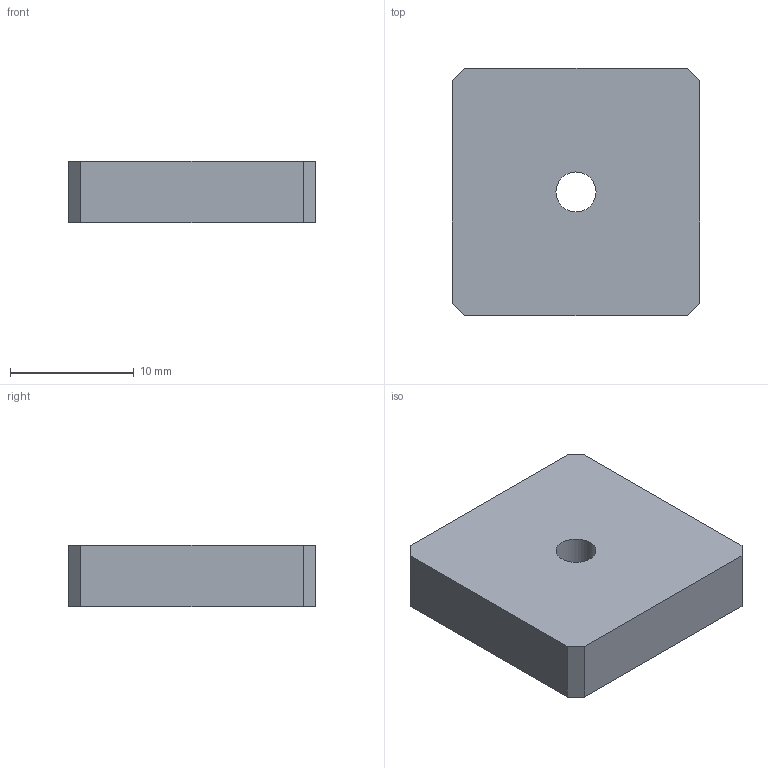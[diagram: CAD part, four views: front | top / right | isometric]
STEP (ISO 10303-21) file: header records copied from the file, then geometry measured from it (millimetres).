
FILE_DESCRIPTION((''),'2;1');
FILE_NAME('C:\Vault Klient\Projekt\Step\100-6000.stp','2009-12-10T09:42:43',('Mathias'),(''),'Autodesk Inventor 2010','Autodesk Inventor 2010','');
FILE_SCHEMA(('CONFIG_CONTROL_DESIGN'));
Length unit declared in the file: millimetre
Products named in the file (1): 100-6000
Bounding box: 20 x 20 x 5 mm (x, y, z)
Volume: 1948.7 mm3; surface area: 1218.7 mm2
Topology: 1 solids, 1 shells, 11 faces, 28 edges, 19 vertices
Faces by surface type: plane 10, bspline 1
Entity records: 361 total; most frequent: CARTESIAN_POINT 73, ORIENTED_EDGE 52, DIRECTION 50, EDGE_CURVE 26, VECTOR 24, LINE 24, VERTEX_POINT 18, EDGE_LOOP 14
